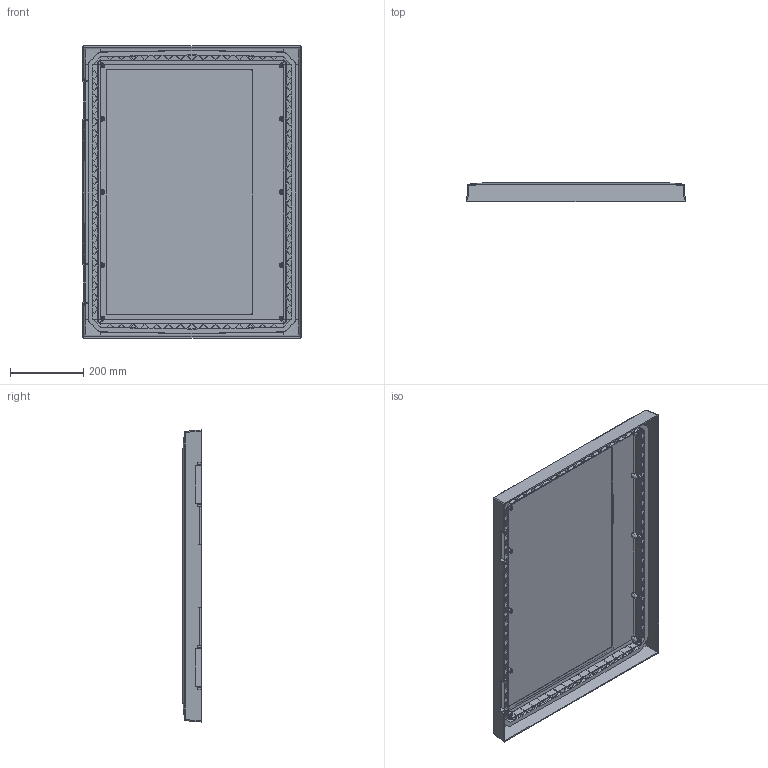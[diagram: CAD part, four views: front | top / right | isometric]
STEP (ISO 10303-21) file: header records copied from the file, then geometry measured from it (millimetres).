
FILE_DESCRIPTION (( 'STEP AP214' ), '1' );
FILE_NAME ('BXPFAT800600300-P01', '2015-01-16T12:13:12', ( '' ), ( '' ), 'SwSTEP 2.0', 'SolidWorks 2014', '' );
FILE_SCHEMA (( 'AUTOMOTIVE_DESIGN' ));
Length unit declared in the file: millimetre
Products named in the file (3): BXPFAT800600300-P01
Assembly tree (2 placements, depth 2):
  BXPFAT800600300-P01
    BXPFAT800600300-P01
    BXPFAT800600300-P01
Bounding box: 598 x 50.8 x 798 mm (x, y, z)
Volume: 1114833.9 mm3; surface area: 1520271 mm2
Topology: 1 solids, 3 shells, 1022 faces, 2481 edges, 1631 vertices
Faces by surface type: plane 826, cylinder 121, bspline 41, cone 34
Entity records: 42672 total; most frequent: CARTESIAN_POINT 7696, ORIENTED_EDGE 4961, DIRECTION 4472, EDGE_CURVE 2483, LINE 2040, VECTOR 2040, VERTEX_POINT 1633, AXIS2_PLACEMENT_3D 1216
